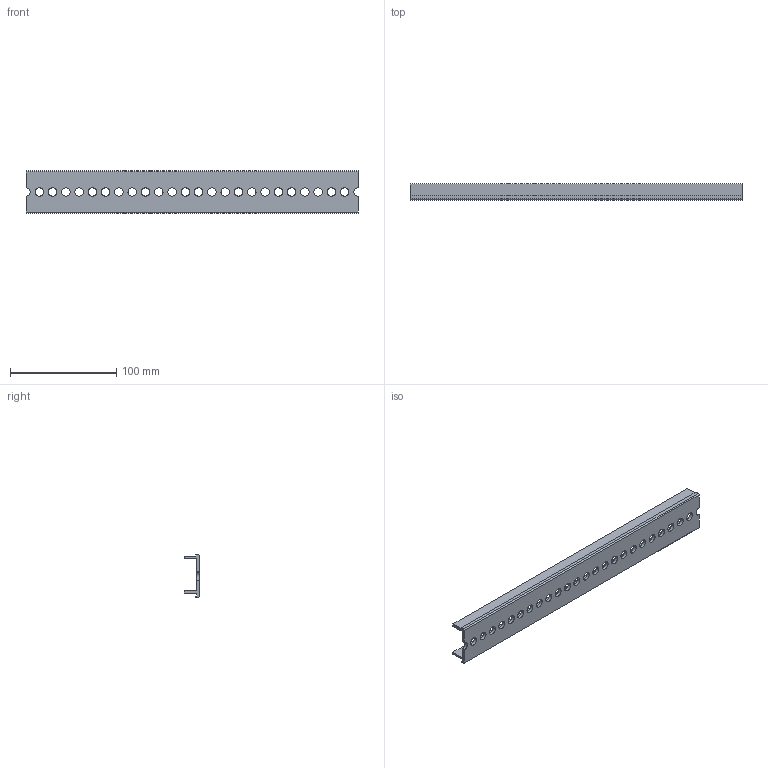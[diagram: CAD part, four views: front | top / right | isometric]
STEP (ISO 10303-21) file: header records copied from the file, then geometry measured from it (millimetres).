
FILE_DESCRIPTION (( 'STEP AP214' ), '1' );
FILE_NAME ('YIS40D-PS-210 Ïðîôèëü àëþìèíèåâûé ñ ïåðôîðàöèåé äëèíà 2100ìì.STEP', '2025-08-19T12:55:28', ( '' ), ( '' ), 'SwSTEP 2.0', 'SolidWorks 2023', '' );
FILE_SCHEMA (( 'AUTOMOTIVE_DESIGN' ));
Length unit declared in the file: millimetre
Products named in the file (1): YIS40D-PS-210 Профиль алюминиевый с перфорацией длина 2100мм
Bounding box: 312.5 x 15 x 40 mm (x, y, z)
Volume: 52686.7 mm3; surface area: 41819.1 mm2
Topology: 1 solids, 1 shells, 71 faces, 207 edges, 138 vertices
Faces by surface type: cylinder 51, plane 20
Entity records: 2522 total; most frequent: DIRECTION 453, CARTESIAN_POINT 417, ORIENTED_EDGE 414, EDGE_CURVE 207, AXIS2_PLACEMENT_3D 174, VERTEX_POINT 138, EDGE_LOOP 119, VECTOR 105
